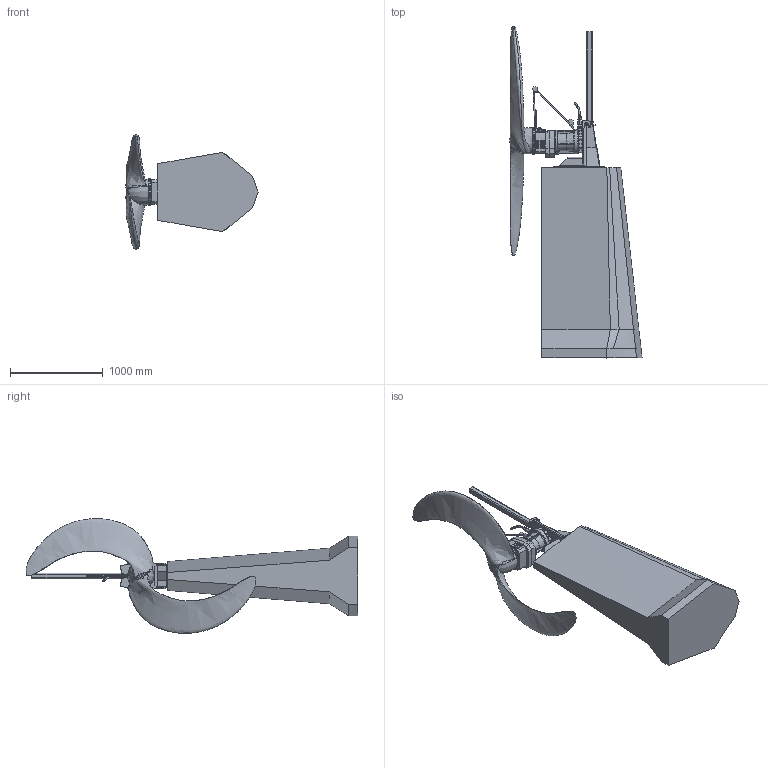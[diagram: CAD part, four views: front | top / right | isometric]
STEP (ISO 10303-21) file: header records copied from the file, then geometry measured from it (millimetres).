
FILE_DESCRIPTION (( 'STEP AP214' ), '1' );
FILE_NAME ('SB2500 Concrete pedestal 2050_MSD.STEP', '2017-03-31T07:28:03', ( '' ), ( '' ), 'SwSTEP 2.0', 'SolidWorks 2017', '' );
FILE_SCHEMA (( 'AUTOMOTIVE_DESIGN' ));
Length unit declared in the file: millimetre
Products named in the file (1): SB2500 Concrete pedestal 2050_MSD
Bounding box: 1423.6 x 3574.79 x 1235.49 mm (x, y, z)
Volume: 836614205.6 mm3; surface area: 10169061.5 mm2
Topology: 7 solids, 7 shells, 1363 faces, 3382 edges, 1981 vertices
Faces by surface type: plane 399, cylinder 331, bspline 263, torus 218, sphere 83, cone 69
Entity records: 401269 total; most frequent: CARTESIAN_POINT 355665, ORIENTED_EDGE 6616, DIRECTION 6305, EDGE_CURVE 3308, AXIS2_PLACEMENT_3D 2496, VERTEX_POINT 1969, EDGE_LOOP 1401, CIRCLE 1395
